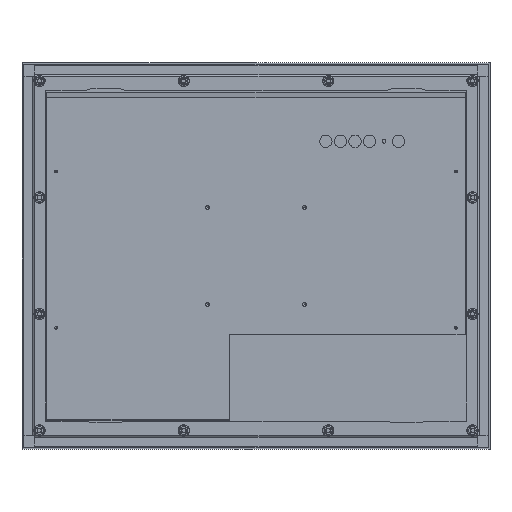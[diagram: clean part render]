
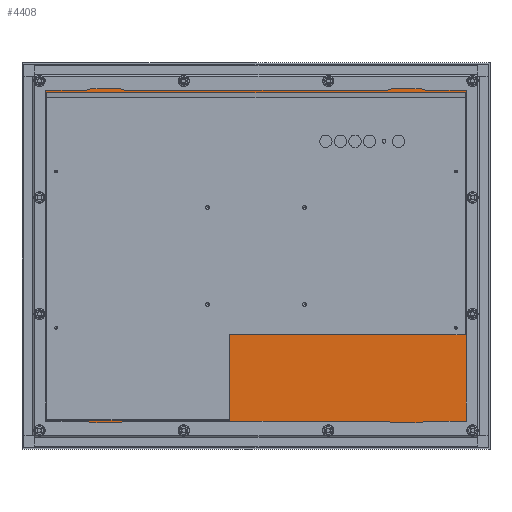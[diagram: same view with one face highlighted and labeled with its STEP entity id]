
A CAD part, top view. The second image highlights one B-rep face of the part: STEP entity #4408.
In plain terms, the highlighted planar face has unit normal (0, 0, 1).
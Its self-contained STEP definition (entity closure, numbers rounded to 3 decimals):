
#4 = VERTEX_POINT ( 'NONE', #10603 ) ;
#112 = CARTESIAN_POINT ( 'NONE',  ( 214.405, 177.713, 24.435 ) ) ;
#583 = EDGE_CURVE ( 'NONE', #3103, #4409, #1472, .T. ) ;
#903 = PLANE ( 'NONE',  #3534 ) ;
#1133 = LINE ( 'NONE', #6454, #10174 ) ;
#1404 = VECTOR ( 'NONE', #5651, 1000. ) ;
#1472 = LINE ( 'NONE', #1798, #6094 ) ;
#1659 = VECTOR ( 'NONE', #2219, 1000. ) ;
#1758 = CARTESIAN_POINT ( 'NONE',  ( -220.817, -171.301, 24.435 ) ) ;
#1798 = CARTESIAN_POINT ( 'NONE',  ( -220.817, -171.301, 24.435 ) ) ;
#1987 = ORIENTED_EDGE ( 'NONE', *, *, #10580, .T. ) ;
#2050 = ORIENTED_EDGE ( 'NONE', *, *, #583, .T. ) ;
#2219 = DIRECTION ( 'NONE',  ( -1., 0., 0. ) ) ;
#2453 = CARTESIAN_POINT ( 'NONE',  ( 220.817, -171.301, 24.435 ) ) ;
#2622 = CARTESIAN_POINT ( 'NONE',  ( 0., 0., 24.435 ) ) ;
#2946 = ORIENTED_EDGE ( 'NONE', *, *, #9135, .T. ) ;
#2950 = DIRECTION ( 'NONE',  ( 0.707, 0.707, 0. ) ) ;
#3068 = EDGE_LOOP ( 'NONE', ( #2050, #9559, #11222, #9163, #2946, #6656, #11335, #1987 ) ) ;
#3103 = VERTEX_POINT ( 'NONE', #8587 ) ;
#3107 = VERTEX_POINT ( 'NONE', #2453 ) ;
#3237 = VERTEX_POINT ( 'NONE', #3665 ) ;
#3534 = AXIS2_PLACEMENT_3D ( 'NONE', #2622, #10536, #5271 ) ;
#3665 = CARTESIAN_POINT ( 'NONE',  ( 220.817, 171.301, 24.435 ) ) ;
#4077 = CARTESIAN_POINT ( 'NONE',  ( 214.405, 177.713, 24.435 ) ) ;
#4121 = LINE ( 'NONE', #10052, #8512 ) ;
#4408 = ADVANCED_FACE ( 'NONE', ( #7183 ), #903, .F. ) ;
#4409 = VERTEX_POINT ( 'NONE', #1758 ) ;
#4528 = LINE ( 'NONE', #6593, #9206 ) ;
#4690 = VECTOR ( 'NONE', #6292, 1000. ) ;
#5149 = EDGE_CURVE ( 'NONE', #4409, #4, #11149, .T. ) ;
#5271 = DIRECTION ( 'NONE',  ( -1., 0., 0. ) ) ;
#5447 = CARTESIAN_POINT ( 'NONE',  ( -214.405, -177.713, 24.435 ) ) ;
#5603 = LINE ( 'NONE', #112, #10015 ) ;
#5651 = DIRECTION ( 'NONE',  ( 0., 1., 0. ) ) ;
#6029 = LINE ( 'NONE', #10926, #1404 ) ;
#6094 = VECTOR ( 'NONE', #7035, 1000. ) ;
#6292 = DIRECTION ( 'NONE',  ( 0.707, -0.707, 0. ) ) ;
#6454 = CARTESIAN_POINT ( 'NONE',  ( 220.817, -171.301, 24.435 ) ) ;
#6533 = VERTEX_POINT ( 'NONE', #10894 ) ;
#6593 = CARTESIAN_POINT ( 'NONE',  ( -220.817, 171.301, 24.435 ) ) ;
#6656 = ORIENTED_EDGE ( 'NONE', *, *, #9818, .T. ) ;
#6717 = VERTEX_POINT ( 'NONE', #4077 ) ;
#7035 = DIRECTION ( 'NONE',  ( 0., -1., 0. ) ) ;
#7070 = DIRECTION ( 'NONE',  ( -0.707, 0.707, 0. ) ) ;
#7183 = FACE_OUTER_BOUND ( 'NONE', #3068, .T. ) ;
#8348 = CARTESIAN_POINT ( 'NONE',  ( -214.405, 177.713, 24.435 ) ) ;
#8359 = LINE ( 'NONE', #8348, #1659 ) ;
#8512 = VECTOR ( 'NONE', #10931, 1000. ) ;
#8587 = CARTESIAN_POINT ( 'NONE',  ( -220.817, 171.301, 24.435 ) ) ;
#9130 = EDGE_CURVE ( 'NONE', #10484, #3107, #1133, .T. ) ;
#9135 = EDGE_CURVE ( 'NONE', #3107, #3237, #6029, .T. ) ;
#9163 = ORIENTED_EDGE ( 'NONE', *, *, #9130, .T. ) ;
#9206 = VECTOR ( 'NONE', #10857, 1000. ) ;
#9559 = ORIENTED_EDGE ( 'NONE', *, *, #5149, .T. ) ;
#9562 = EDGE_CURVE ( 'NONE', #6717, #6533, #8359, .T. ) ;
#9818 = EDGE_CURVE ( 'NONE', #3237, #6717, #5603, .T. ) ;
#9865 = CARTESIAN_POINT ( 'NONE',  ( 214.405, -177.713, 24.435 ) ) ;
#10015 = VECTOR ( 'NONE', #7070, 1000. ) ;
#10052 = CARTESIAN_POINT ( 'NONE',  ( 214.405, -177.713, 24.435 ) ) ;
#10174 = VECTOR ( 'NONE', #2950, 1000. ) ;
#10484 = VERTEX_POINT ( 'NONE', #9865 ) ;
#10536 = DIRECTION ( 'NONE',  ( 0., 0., -1. ) ) ;
#10580 = EDGE_CURVE ( 'NONE', #6533, #3103, #4528, .T. ) ;
#10603 = CARTESIAN_POINT ( 'NONE',  ( -214.405, -177.713, 24.435 ) ) ;
#10857 = DIRECTION ( 'NONE',  ( -0.707, -0.707, 0. ) ) ;
#10894 = CARTESIAN_POINT ( 'NONE',  ( -214.405, 177.713, 24.435 ) ) ;
#10926 = CARTESIAN_POINT ( 'NONE',  ( 220.817, 171.301, 24.435 ) ) ;
#10931 = DIRECTION ( 'NONE',  ( 1., 0., 0. ) ) ;
#11042 = EDGE_CURVE ( 'NONE', #4, #10484, #4121, .T. ) ;
#11149 = LINE ( 'NONE', #5447, #4690 ) ;
#11222 = ORIENTED_EDGE ( 'NONE', *, *, #11042, .T. ) ;
#11335 = ORIENTED_EDGE ( 'NONE', *, *, #9562, .T. ) ;
